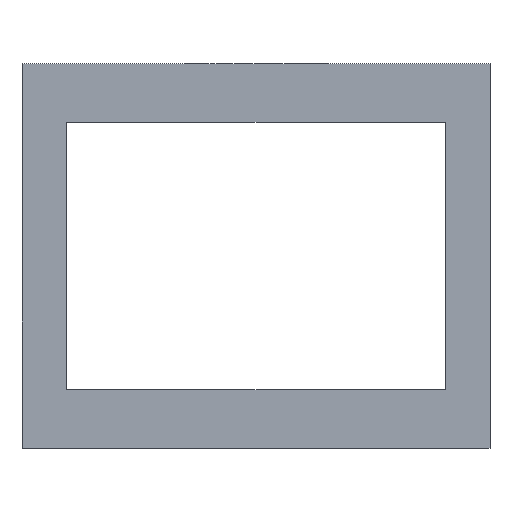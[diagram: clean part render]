
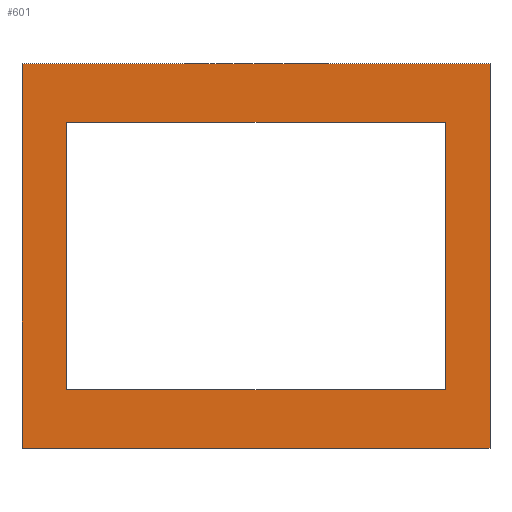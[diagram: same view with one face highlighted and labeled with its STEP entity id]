
A CAD part, top view. The second image highlights one B-rep face of the part: STEP entity #601.
In plain terms, the highlighted planar face has unit normal (0, 0, 1).
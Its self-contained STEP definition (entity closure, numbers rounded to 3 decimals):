
#32 = PLANE('',#33);
#33 = AXIS2_PLACEMENT_3D('',#34,#35,#36);
#34 = CARTESIAN_POINT('',(-68.,-48.,175.));
#35 = DIRECTION('',(1.,0.,0.));
#36 = DIRECTION('',(0.,0.,1.));
#56 = VERTEX_POINT('',#57);
#57 = CARTESIAN_POINT('',(-68.,48.,206.));
#71 = PLANE('',#72);
#72 = AXIS2_PLACEMENT_3D('',#73,#74,#75);
#73 = CARTESIAN_POINT('',(-68.,48.,175.));
#74 = DIRECTION('',(0.,1.,0.));
#75 = DIRECTION('',(0.,0.,1.));
#83 = EDGE_CURVE('',#84,#56,#86,.T.);
#84 = VERTEX_POINT('',#85);
#85 = CARTESIAN_POINT('',(-68.,-48.,206.));
#86 = SURFACE_CURVE('',#87,(#91,#98),.PCURVE_S1.);
#87 = LINE('',#88,#89);
#88 = CARTESIAN_POINT('',(-68.,-58.5,206.));
#89 = VECTOR('',#90,1.);
#90 = DIRECTION('',(0.,1.,0.));
#91 = PCURVE('',#32,#92);
#92 = DEFINITIONAL_REPRESENTATION('',(#93),#97);
#93 = LINE('',#94,#95);
#94 = CARTESIAN_POINT('',(31.,10.5));
#95 = VECTOR('',#96,1.);
#96 = DIRECTION('',(0.,-1.));
#97 = ( GEOMETRIC_REPRESENTATION_CONTEXT(2) 
PARAMETRIC_REPRESENTATION_CONTEXT() REPRESENTATION_CONTEXT('2D SPACE',''
  ) );
#98 = PCURVE('',#99,#104);
#99 = PLANE('',#100);
#100 = AXIS2_PLACEMENT_3D('',#101,#102,#103);
#101 = CARTESIAN_POINT('',(-84.,-69.,206.));
#102 = DIRECTION('',(0.,0.,1.));
#103 = DIRECTION('',(1.,0.,0.));
#104 = DEFINITIONAL_REPRESENTATION('',(#105),#108);
#105 = B_SPLINE_CURVE_WITH_KNOTS('',1,(#106,#107),.UNSPECIFIED.,.F.,.F.,
  (2,2),(10.5,106.5),.PIECEWISE_BEZIER_KNOTS.);
#106 = CARTESIAN_POINT('',(16.,21.));
#107 = CARTESIAN_POINT('',(16.,117.));
#108 = ( GEOMETRIC_REPRESENTATION_CONTEXT(2) 
PARAMETRIC_REPRESENTATION_CONTEXT() REPRESENTATION_CONTEXT('2D SPACE',''
  ) );
#124 = PLANE('',#125);
#125 = AXIS2_PLACEMENT_3D('',#126,#127,#128);
#126 = CARTESIAN_POINT('',(-68.,-48.,175.));
#127 = DIRECTION('',(0.,1.,0.));
#128 = DIRECTION('',(0.,0.,1.));
#157 = PLANE('',#158);
#158 = AXIS2_PLACEMENT_3D('',#159,#160,#161);
#159 = CARTESIAN_POINT('',(-84.,69.,176.));
#160 = DIRECTION('',(0.,1.,0.));
#161 = DIRECTION('',(0.,0.,1.));
#185 = PLANE('',#186);
#186 = AXIS2_PLACEMENT_3D('',#187,#188,#189);
#187 = CARTESIAN_POINT('',(-84.,-69.,176.));
#188 = DIRECTION('',(1.,0.,0.));
#189 = DIRECTION('',(0.,0.,1.));
#213 = PLANE('',#214);
#214 = AXIS2_PLACEMENT_3D('',#215,#216,#217);
#215 = CARTESIAN_POINT('',(-84.,-69.,176.));
#216 = DIRECTION('',(0.,1.,0.));
#217 = DIRECTION('',(0.,0.,1.));
#346 = PLANE('',#347);
#347 = AXIS2_PLACEMENT_3D('',#348,#349,#350);
#348 = CARTESIAN_POINT('',(84.,-69.,176.));
#349 = DIRECTION('',(1.,0.,0.));
#350 = DIRECTION('',(0.,0.,1.));
#511 = PLANE('',#512);
#512 = AXIS2_PLACEMENT_3D('',#513,#514,#515);
#513 = CARTESIAN_POINT('',(68.,-48.,175.));
#514 = DIRECTION('',(1.,0.,0.));
#515 = DIRECTION('',(0.,0.,1.));
#558 = VERTEX_POINT('',#559);
#559 = CARTESIAN_POINT('',(68.,48.,206.));
#582 = EDGE_CURVE('',#558,#56,#583,.T.);
#583 = SURFACE_CURVE('',#584,(#588,#595),.PCURVE_S1.);
#584 = LINE('',#585,#586);
#585 = CARTESIAN_POINT('',(-76.,48.,206.));
#586 = VECTOR('',#587,1.);
#587 = DIRECTION('',(-1.,0.,0.));
#588 = PCURVE('',#71,#589);
#589 = DEFINITIONAL_REPRESENTATION('',(#590),#594);
#590 = LINE('',#591,#592);
#591 = CARTESIAN_POINT('',(31.,-8.));
#592 = VECTOR('',#593,1.);
#593 = DIRECTION('',(0.,-1.));
#594 = ( GEOMETRIC_REPRESENTATION_CONTEXT(2) 
PARAMETRIC_REPRESENTATION_CONTEXT() REPRESENTATION_CONTEXT('2D SPACE',''
  ) );
#595 = PCURVE('',#99,#596);
#596 = DEFINITIONAL_REPRESENTATION('',(#597),#600);
#597 = B_SPLINE_CURVE_WITH_KNOTS('',1,(#598,#599),.UNSPECIFIED.,.F.,.F.,
  (2,2),(-144.,-8.),.PIECEWISE_BEZIER_KNOTS.);
#598 = CARTESIAN_POINT('',(152.,117.));
#599 = CARTESIAN_POINT('',(16.,117.));
#600 = ( GEOMETRIC_REPRESENTATION_CONTEXT(2) 
PARAMETRIC_REPRESENTATION_CONTEXT() REPRESENTATION_CONTEXT('2D SPACE',''
  ) );
#601 = ADVANCED_FACE('',(#602,#696),#99,.T.);
#602 = FACE_BOUND('',#603,.T.);
#603 = EDGE_LOOP('',(#604,#629,#652,#675));
#604 = ORIENTED_EDGE('',*,*,#605,.F.);
#605 = EDGE_CURVE('',#606,#608,#610,.T.);
#606 = VERTEX_POINT('',#607);
#607 = CARTESIAN_POINT('',(-84.,-69.,206.));
#608 = VERTEX_POINT('',#609);
#609 = CARTESIAN_POINT('',(-84.,69.,206.));
#610 = SURFACE_CURVE('',#611,(#615,#622),.PCURVE_S1.);
#611 = LINE('',#612,#613);
#612 = CARTESIAN_POINT('',(-84.,-69.,206.));
#613 = VECTOR('',#614,1.);
#614 = DIRECTION('',(0.,1.,0.));
#615 = PCURVE('',#99,#616);
#616 = DEFINITIONAL_REPRESENTATION('',(#617),#621);
#617 = LINE('',#618,#619);
#618 = CARTESIAN_POINT('',(0.,0.));
#619 = VECTOR('',#620,1.);
#620 = DIRECTION('',(0.,1.));
#621 = ( GEOMETRIC_REPRESENTATION_CONTEXT(2) 
PARAMETRIC_REPRESENTATION_CONTEXT() REPRESENTATION_CONTEXT('2D SPACE',''
  ) );
#622 = PCURVE('',#185,#623);
#623 = DEFINITIONAL_REPRESENTATION('',(#624),#628);
#624 = LINE('',#625,#626);
#625 = CARTESIAN_POINT('',(30.,0.));
#626 = VECTOR('',#627,1.);
#627 = DIRECTION('',(0.,-1.));
#628 = ( GEOMETRIC_REPRESENTATION_CONTEXT(2) 
PARAMETRIC_REPRESENTATION_CONTEXT() REPRESENTATION_CONTEXT('2D SPACE',''
  ) );
#629 = ORIENTED_EDGE('',*,*,#630,.T.);
#630 = EDGE_CURVE('',#606,#631,#633,.T.);
#631 = VERTEX_POINT('',#632);
#632 = CARTESIAN_POINT('',(84.,-69.,206.));
#633 = SURFACE_CURVE('',#634,(#638,#645),.PCURVE_S1.);
#634 = LINE('',#635,#636);
#635 = CARTESIAN_POINT('',(-84.,-69.,206.));
#636 = VECTOR('',#637,1.);
#637 = DIRECTION('',(1.,0.,0.));
#638 = PCURVE('',#99,#639);
#639 = DEFINITIONAL_REPRESENTATION('',(#640),#644);
#640 = LINE('',#641,#642);
#641 = CARTESIAN_POINT('',(0.,0.));
#642 = VECTOR('',#643,1.);
#643 = DIRECTION('',(1.,0.));
#644 = ( GEOMETRIC_REPRESENTATION_CONTEXT(2) 
PARAMETRIC_REPRESENTATION_CONTEXT() REPRESENTATION_CONTEXT('2D SPACE',''
  ) );
#645 = PCURVE('',#213,#646);
#646 = DEFINITIONAL_REPRESENTATION('',(#647),#651);
#647 = LINE('',#648,#649);
#648 = CARTESIAN_POINT('',(30.,0.));
#649 = VECTOR('',#650,1.);
#650 = DIRECTION('',(0.,1.));
#651 = ( GEOMETRIC_REPRESENTATION_CONTEXT(2) 
PARAMETRIC_REPRESENTATION_CONTEXT() REPRESENTATION_CONTEXT('2D SPACE',''
  ) );
#652 = ORIENTED_EDGE('',*,*,#653,.T.);
#653 = EDGE_CURVE('',#631,#654,#656,.T.);
#654 = VERTEX_POINT('',#655);
#655 = CARTESIAN_POINT('',(84.,69.,206.));
#656 = SURFACE_CURVE('',#657,(#661,#668),.PCURVE_S1.);
#657 = LINE('',#658,#659);
#658 = CARTESIAN_POINT('',(84.,-69.,206.));
#659 = VECTOR('',#660,1.);
#660 = DIRECTION('',(0.,1.,0.));
#661 = PCURVE('',#99,#662);
#662 = DEFINITIONAL_REPRESENTATION('',(#663),#667);
#663 = LINE('',#664,#665);
#664 = CARTESIAN_POINT('',(168.,0.));
#665 = VECTOR('',#666,1.);
#666 = DIRECTION('',(0.,1.));
#667 = ( GEOMETRIC_REPRESENTATION_CONTEXT(2) 
PARAMETRIC_REPRESENTATION_CONTEXT() REPRESENTATION_CONTEXT('2D SPACE',''
  ) );
#668 = PCURVE('',#346,#669);
#669 = DEFINITIONAL_REPRESENTATION('',(#670),#674);
#670 = LINE('',#671,#672);
#671 = CARTESIAN_POINT('',(30.,0.));
#672 = VECTOR('',#673,1.);
#673 = DIRECTION('',(0.,-1.));
#674 = ( GEOMETRIC_REPRESENTATION_CONTEXT(2) 
PARAMETRIC_REPRESENTATION_CONTEXT() REPRESENTATION_CONTEXT('2D SPACE',''
  ) );
#675 = ORIENTED_EDGE('',*,*,#676,.F.);
#676 = EDGE_CURVE('',#608,#654,#677,.T.);
#677 = SURFACE_CURVE('',#678,(#682,#689),.PCURVE_S1.);
#678 = LINE('',#679,#680);
#679 = CARTESIAN_POINT('',(-84.,69.,206.));
#680 = VECTOR('',#681,1.);
#681 = DIRECTION('',(1.,0.,0.));
#682 = PCURVE('',#99,#683);
#683 = DEFINITIONAL_REPRESENTATION('',(#684),#688);
#684 = LINE('',#685,#686);
#685 = CARTESIAN_POINT('',(0.,138.));
#686 = VECTOR('',#687,1.);
#687 = DIRECTION('',(1.,0.));
#688 = ( GEOMETRIC_REPRESENTATION_CONTEXT(2) 
PARAMETRIC_REPRESENTATION_CONTEXT() REPRESENTATION_CONTEXT('2D SPACE',''
  ) );
#689 = PCURVE('',#157,#690);
#690 = DEFINITIONAL_REPRESENTATION('',(#691),#695);
#691 = LINE('',#692,#693);
#692 = CARTESIAN_POINT('',(30.,0.));
#693 = VECTOR('',#694,1.);
#694 = DIRECTION('',(0.,1.));
#695 = ( GEOMETRIC_REPRESENTATION_CONTEXT(2) 
PARAMETRIC_REPRESENTATION_CONTEXT() REPRESENTATION_CONTEXT('2D SPACE',''
  ) );
#696 = FACE_BOUND('',#697,.T.);
#697 = EDGE_LOOP('',(#698,#720,#721,#722));
#698 = ORIENTED_EDGE('',*,*,#699,.T.);
#699 = EDGE_CURVE('',#700,#84,#702,.T.);
#700 = VERTEX_POINT('',#701);
#701 = CARTESIAN_POINT('',(68.,-48.,206.));
#702 = SURFACE_CURVE('',#703,(#707,#713),.PCURVE_S1.);
#703 = LINE('',#704,#705);
#704 = CARTESIAN_POINT('',(-76.,-48.,206.));
#705 = VECTOR('',#706,1.);
#706 = DIRECTION('',(-1.,0.,0.));
#707 = PCURVE('',#99,#708);
#708 = DEFINITIONAL_REPRESENTATION('',(#709),#712);
#709 = B_SPLINE_CURVE_WITH_KNOTS('',1,(#710,#711),.UNSPECIFIED.,.F.,.F.,
  (2,2),(-144.,-8.),.PIECEWISE_BEZIER_KNOTS.);
#710 = CARTESIAN_POINT('',(152.,21.));
#711 = CARTESIAN_POINT('',(16.,21.));
#712 = ( GEOMETRIC_REPRESENTATION_CONTEXT(2) 
PARAMETRIC_REPRESENTATION_CONTEXT() REPRESENTATION_CONTEXT('2D SPACE',''
  ) );
#713 = PCURVE('',#124,#714);
#714 = DEFINITIONAL_REPRESENTATION('',(#715),#719);
#715 = LINE('',#716,#717);
#716 = CARTESIAN_POINT('',(31.,-8.));
#717 = VECTOR('',#718,1.);
#718 = DIRECTION('',(0.,-1.));
#719 = ( GEOMETRIC_REPRESENTATION_CONTEXT(2) 
PARAMETRIC_REPRESENTATION_CONTEXT() REPRESENTATION_CONTEXT('2D SPACE',''
  ) );
#720 = ORIENTED_EDGE('',*,*,#83,.T.);
#721 = ORIENTED_EDGE('',*,*,#582,.F.);
#722 = ORIENTED_EDGE('',*,*,#723,.F.);
#723 = EDGE_CURVE('',#700,#558,#724,.T.);
#724 = SURFACE_CURVE('',#725,(#729,#735),.PCURVE_S1.);
#725 = LINE('',#726,#727);
#726 = CARTESIAN_POINT('',(68.,-58.5,206.));
#727 = VECTOR('',#728,1.);
#728 = DIRECTION('',(0.,1.,0.));
#729 = PCURVE('',#99,#730);
#730 = DEFINITIONAL_REPRESENTATION('',(#731),#734);
#731 = B_SPLINE_CURVE_WITH_KNOTS('',1,(#732,#733),.UNSPECIFIED.,.F.,.F.,
  (2,2),(10.5,106.5),.PIECEWISE_BEZIER_KNOTS.);
#732 = CARTESIAN_POINT('',(152.,21.));
#733 = CARTESIAN_POINT('',(152.,117.));
#734 = ( GEOMETRIC_REPRESENTATION_CONTEXT(2) 
PARAMETRIC_REPRESENTATION_CONTEXT() REPRESENTATION_CONTEXT('2D SPACE',''
  ) );
#735 = PCURVE('',#511,#736);
#736 = DEFINITIONAL_REPRESENTATION('',(#737),#741);
#737 = LINE('',#738,#739);
#738 = CARTESIAN_POINT('',(31.,10.5));
#739 = VECTOR('',#740,1.);
#740 = DIRECTION('',(0.,-1.));
#741 = ( GEOMETRIC_REPRESENTATION_CONTEXT(2) 
PARAMETRIC_REPRESENTATION_CONTEXT() REPRESENTATION_CONTEXT('2D SPACE',''
  ) );
